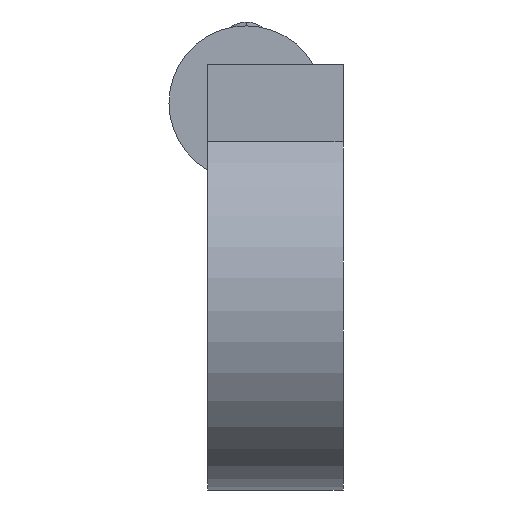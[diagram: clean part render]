
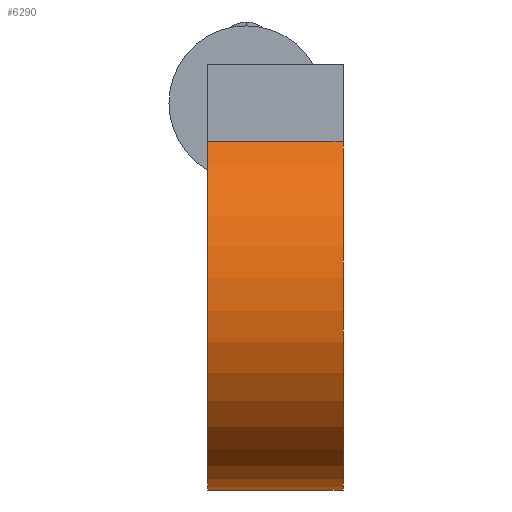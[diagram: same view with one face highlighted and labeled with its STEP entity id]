
A CAD part, left-side view. The second image highlights one B-rep face of the part: STEP entity #6290.
In plain terms, the highlighted cylindrical face has radius 50 mm (diameter 100 mm), a partial arc.
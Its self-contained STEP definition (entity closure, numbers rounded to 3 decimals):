
#37 = VERTEX_POINT ( 'NONE', #5473 ) ;
#165 = DIRECTION ( 'NONE',  ( 0., 0., -1. ) ) ;
#1113 = DIRECTION ( 'NONE',  ( 0., -1., 0. ) ) ;
#2251 = CIRCLE ( 'NONE', #9060, 50. ) ;
#2621 = CARTESIAN_POINT ( 'NONE',  ( 0., 0., -50. ) ) ;
#2701 = FACE_OUTER_BOUND ( 'NONE', #7875, .T. ) ;
#3056 = EDGE_CURVE ( 'NONE', #3507, #8140, #6037, .T. ) ;
#3362 = EDGE_CURVE ( 'NONE', #37, #8492, #4306, .T. ) ;
#3507 = VERTEX_POINT ( 'NONE', #6585 ) ;
#3621 = VECTOR ( 'NONE', #4396, 1000. ) ;
#4043 = DIRECTION ( 'NONE',  ( 0., -1., 0. ) ) ;
#4306 = LINE ( 'NONE', #12954, #3621 ) ;
#4396 = DIRECTION ( 'NONE',  ( 0., 1., 0. ) ) ;
#4688 = ORIENTED_EDGE ( 'NONE', *, *, #3362, .T. ) ;
#5093 = DIRECTION ( 'NONE',  ( 0., 0., -1. ) ) ;
#5473 = CARTESIAN_POINT ( 'NONE',  ( -30., 0., 40. ) ) ;
#5961 = CYLINDRICAL_SURFACE ( 'NONE', #13901, 50. ) ;
#6037 = LINE ( 'NONE', #11015, #7058 ) ;
#6114 = AXIS2_PLACEMENT_3D ( 'NONE', #7685, #1113, #8712 ) ;
#6290 = ADVANCED_FACE ( 'NONE', ( #2701 ), #5961, .T. ) ;
#6540 = DIRECTION ( 'NONE',  ( 0., -1., 0. ) ) ;
#6557 = ORIENTED_EDGE ( 'NONE', *, *, #3056, .T. ) ;
#6585 = CARTESIAN_POINT ( 'NONE',  ( 0., 35., -50. ) ) ;
#6609 = CARTESIAN_POINT ( 'NONE',  ( -30., 35., 40. ) ) ;
#6851 = CARTESIAN_POINT ( 'NONE',  ( 0., 0., 0. ) ) ;
#7058 = VECTOR ( 'NONE', #6540, 1000. ) ;
#7507 = EDGE_CURVE ( 'NONE', #8492, #3507, #14017, .T. ) ;
#7685 = CARTESIAN_POINT ( 'NONE',  ( 0., 35., 0. ) ) ;
#7875 = EDGE_LOOP ( 'NONE', ( #9939, #6557, #13512, #4688 ) ) ;
#8140 = VERTEX_POINT ( 'NONE', #2621 ) ;
#8492 = VERTEX_POINT ( 'NONE', #6609 ) ;
#8712 = DIRECTION ( 'NONE',  ( 0., 0., -1. ) ) ;
#9060 = AXIS2_PLACEMENT_3D ( 'NONE', #6851, #13272, #165 ) ;
#9939 = ORIENTED_EDGE ( 'NONE', *, *, #7507, .T. ) ;
#10661 = CARTESIAN_POINT ( 'NONE',  ( 0., 35., 0. ) ) ;
#11015 = CARTESIAN_POINT ( 'NONE',  ( 0., 35., -50. ) ) ;
#11550 = EDGE_CURVE ( 'NONE', #8140, #37, #2251, .T. ) ;
#12954 = CARTESIAN_POINT ( 'NONE',  ( -30., 0., 40. ) ) ;
#13272 = DIRECTION ( 'NONE',  ( 0., 1., 0. ) ) ;
#13512 = ORIENTED_EDGE ( 'NONE', *, *, #11550, .T. ) ;
#13901 = AXIS2_PLACEMENT_3D ( 'NONE', #10661, #4043, #5093 ) ;
#14017 = CIRCLE ( 'NONE', #6114, 50. ) ;
